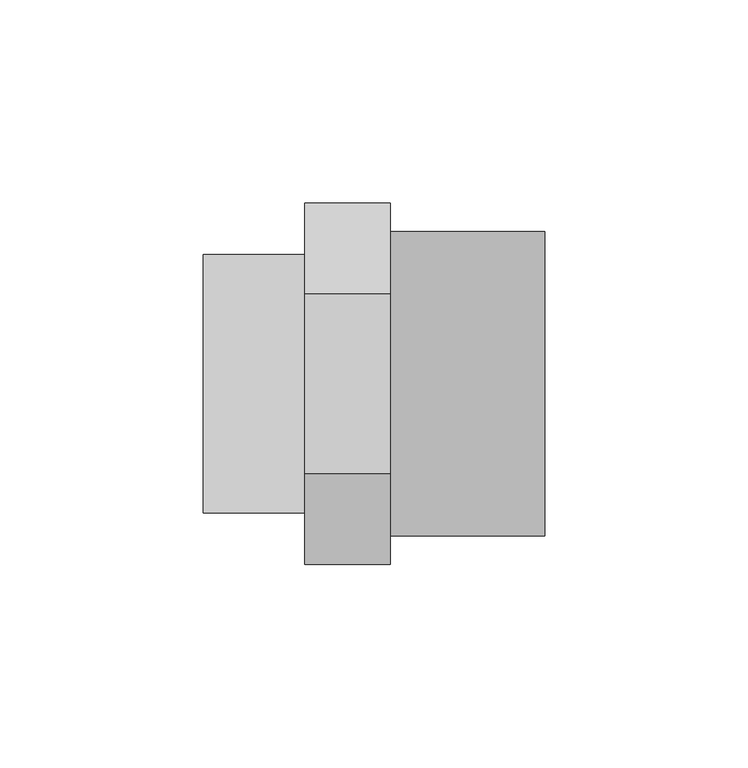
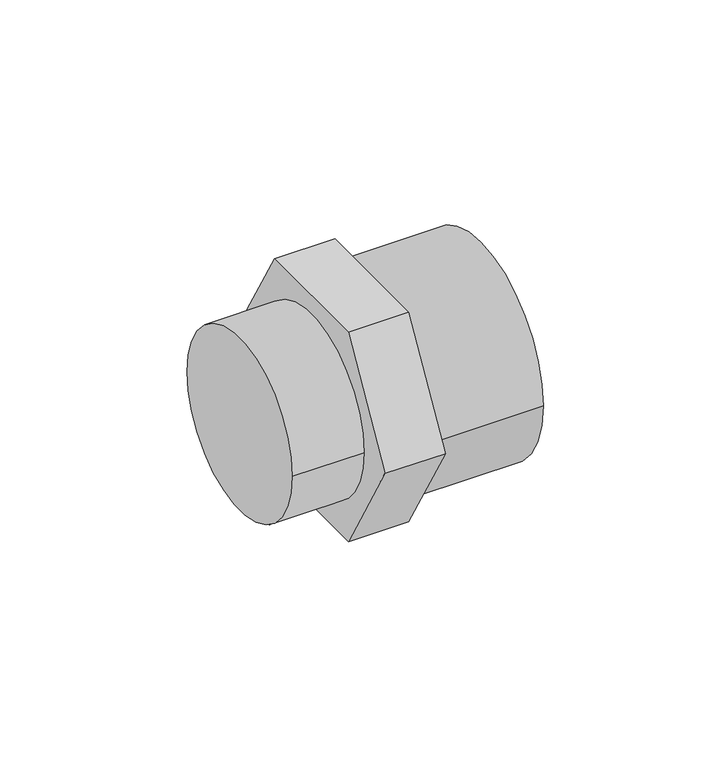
"""IFC4 building model written with IfcOpenShell, lengths in millimetres: pipe fitting geometry, 01101081 : Uniões múltiplas F/M/M."""

from ifc_helpers import new_model, si_unit, point, frame, origin, origin_2d, place, context, project, spatial, polyline, circle_curve, trimmed, segment, composite_curve, outline, extrude, source, transform, mapped, element, save


def pipe_fitting_2f72121b(model_context):
    return source(origin(), model_context, "Body", "SweptSolid", [
        extrude(outline(composite_curve([segment(trimmed(circle_curve(origin_2d(), 31.75), [point((31.75, 0.0))], [point((-31.75, 0.0))], False, "CARTESIAN"), True, "CONTINUOUS"), segment(trimmed(circle_curve(origin_2d(), 31.75), [point((-31.75, 0.0))], [point((31.75, 0.0))], False, "CARTESIAN"), True, "CONTINUOUS")], self_intersect=False)), frame((0.0, 0.0, 0.0), z_axis=(1.0, 0.0, 0.0), x_axis=(0.0, 1.0, 0.0)), (0.0, 0.0, 1.0), 25.0),
        extrude(outline(polyline([(-22.2279854, 38.5), (22.2279854, 38.5), (44.4559707, 0.0), (22.2279854, -38.5), (-22.2279854, -38.5), (-44.4559707, 0.0), (-22.2279854, 38.5)])), frame((25.0, 0.0, 0.0), z_axis=(1.0, 0.0, 0.0), x_axis=(0.0, 1.0, 0.0)), (0.0, 0.0, 1.0), 21.0),
        extrude(outline(composite_curve([segment(trimmed(circle_curve(origin_2d(), 37.5), [point((-37.5, 0.0))], [point((37.5, 0.0))], False, "CARTESIAN"), True, "CONTINUOUS"), segment(trimmed(circle_curve(origin_2d(), 37.5), [point((37.5, 0.0))], [point((-37.5, 0.0))], False, "CARTESIAN"), True, "CONTINUOUS")], self_intersect=False)), frame((46.0, 0.0, 0.0), z_axis=(1.0, 0.0, 0.0), x_axis=(0.0, 1.0, 0.0)), (0.0, 0.0, 1.0), 38.0),
    ])


if __name__ == "__main__":
    model = new_model("IFC4")
    model_context = context("Model", 3, world=origin())
    ifc_project = project(units=[si_unit("LENGTHUNIT", "METRE", prefix="MILLI")], contexts=[model_context])
    site = spatial("IfcSite", under=ifc_project)
    building = spatial("IfcBuilding", under=site)
    placement = place(None, origin())
    pipe_fitting_shape = pipe_fitting_2f72121b(model_context)
    element("IfcPipeFitting", 1, ObjectType="01101081 : Uniões múltiplas F/M/M", at=placement, inside=building, context=model_context, shape_type="MappedRepresentation", body=[
        mapped(pipe_fitting_shape, transform((0.0, 0.0, 0.0), x_axis=(1.0, 0.0, 0.0), y_axis=(0.0, 1.0, 0.0), z_axis=(0.0, 0.0, 1.0))),
    ])
    save(model, "model.ifc")
